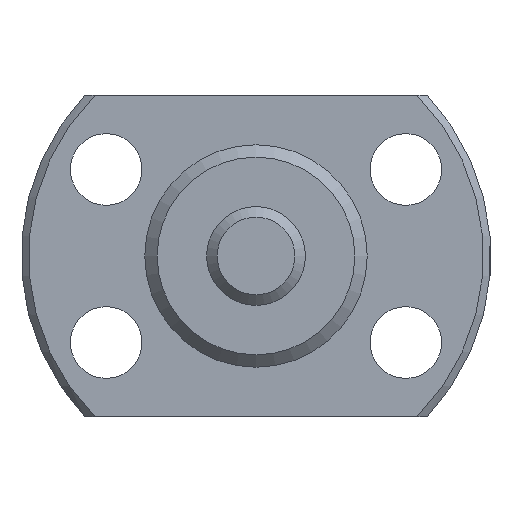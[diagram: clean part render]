
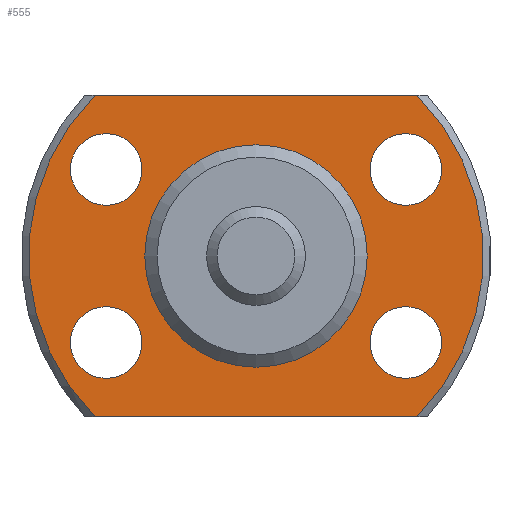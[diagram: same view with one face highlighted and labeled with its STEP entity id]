
A CAD part, left-side view. The second image highlights one B-rep face of the part: STEP entity #555.
In plain terms, the highlighted planar face has unit normal (-1, 0, 0) as drawn and (1, 0, 0) by its records, which use the part's own axes.
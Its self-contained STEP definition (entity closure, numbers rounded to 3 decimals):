
#51=LINE('',#981,#67);
#52=LINE('',#983,#68);
#67=VECTOR('',#810,1000.);
#68=VECTOR('',#811,1000.);
#174=ORIENTED_EDGE('',*,*,#268,.T.);
#175=ORIENTED_EDGE('',*,*,#246,.T.);
#176=ORIENTED_EDGE('',*,*,#269,.T.);
#177=ORIENTED_EDGE('',*,*,#270,.T.);
#178=ORIENTED_EDGE('',*,*,#271,.F.);
#179=ORIENTED_EDGE('',*,*,#272,.F.);
#180=ORIENTED_EDGE('',*,*,#273,.F.);
#181=ORIENTED_EDGE('',*,*,#274,.F.);
#182=ORIENTED_EDGE('',*,*,#267,.F.);
#246=EDGE_CURVE('',#303,#305,#350,.T.);
#267=EDGE_CURVE('',#324,#324,#365,.T.);
#268=EDGE_CURVE('',#325,#303,#51,.T.);
#269=EDGE_CURVE('',#305,#326,#52,.T.);
#270=EDGE_CURVE('',#326,#325,#366,.T.);
#271=EDGE_CURVE('',#327,#327,#367,.T.);
#272=EDGE_CURVE('',#328,#328,#368,.T.);
#273=EDGE_CURVE('',#329,#329,#369,.T.);
#274=EDGE_CURVE('',#330,#330,#370,.T.);
#303=VERTEX_POINT('',#916);
#305=VERTEX_POINT('',#923);
#324=VERTEX_POINT('',#979);
#325=VERTEX_POINT('',#982);
#326=VERTEX_POINT('',#984);
#327=VERTEX_POINT('',#987);
#328=VERTEX_POINT('',#989);
#329=VERTEX_POINT('',#991);
#330=VERTEX_POINT('',#993);
#350=CIRCLE('',#628,9.2);
#365=CIRCLE('',#652,4.3);
#366=CIRCLE('',#654,9.2);
#367=CIRCLE('',#655,1.45);
#368=CIRCLE('',#656,1.45);
#369=CIRCLE('',#657,1.45);
#370=CIRCLE('',#658,1.45);
#423=EDGE_LOOP('',(#174,#175,#176,#177));
#424=EDGE_LOOP('',(#178));
#425=EDGE_LOOP('',(#179));
#426=EDGE_LOOP('',(#180));
#427=EDGE_LOOP('',(#181));
#428=EDGE_LOOP('',(#182));
#493=FACE_BOUND('',#423,.T.);
#494=FACE_BOUND('',#424,.T.);
#495=FACE_BOUND('',#425,.T.);
#496=FACE_BOUND('',#426,.T.);
#497=FACE_BOUND('',#427,.T.);
#498=FACE_BOUND('',#428,.T.);
#524=PLANE('',#653);
#555=ADVANCED_FACE('',(#493,#494,#495,#496,#497,#498),#524,.T.);
#628=AXIS2_PLACEMENT_3D('',#924,#754,#755);
#652=AXIS2_PLACEMENT_3D('',#978,#806,#807);
#653=AXIS2_PLACEMENT_3D('',#980,#808,#809);
#654=AXIS2_PLACEMENT_3D('',#985,#812,#813);
#655=AXIS2_PLACEMENT_3D('',#986,#814,#815);
#656=AXIS2_PLACEMENT_3D('',#988,#816,#817);
#657=AXIS2_PLACEMENT_3D('',#990,#818,#819);
#658=AXIS2_PLACEMENT_3D('',#992,#820,#821);
#754=DIRECTION('',(1.,0.,0.));
#755=DIRECTION('',(0.,0.,-1.));
#806=DIRECTION('',(1.,0.,0.));
#807=DIRECTION('',(0.,0.,-1.));
#808=DIRECTION('',(1.,0.,0.));
#809=DIRECTION('',(0.,0.,-1.));
#810=DIRECTION('',(0.,-1.,0.));
#811=DIRECTION('',(0.,1.,0.));
#812=DIRECTION('',(1.,0.,0.));
#813=DIRECTION('',(0.,0.,-1.));
#814=DIRECTION('',(1.,0.,0.));
#815=DIRECTION('',(0.,0.,-1.));
#816=DIRECTION('',(1.,0.,0.));
#817=DIRECTION('',(0.,0.,-1.));
#818=DIRECTION('',(1.,0.,0.));
#819=DIRECTION('',(0.,0.,-1.));
#820=DIRECTION('',(1.,0.,0.));
#821=DIRECTION('',(0.,0.,-1.));
#916=CARTESIAN_POINT('',(3.,-6.511,6.5));
#923=CARTESIAN_POINT('',(3.,-6.511,-6.5));
#924=CARTESIAN_POINT('',(3.,0.,0.));
#978=CARTESIAN_POINT('',(3.,0.,0.));
#979=CARTESIAN_POINT('',(3.,0.,-4.3));
#980=CARTESIAN_POINT('',(3.,4.3,0.));
#981=CARTESIAN_POINT('',(3.,9.5,6.5));
#982=CARTESIAN_POINT('',(3.,6.511,6.5));
#983=CARTESIAN_POINT('',(3.,-9.5,-6.5));
#984=CARTESIAN_POINT('',(3.,6.511,-6.5));
#985=CARTESIAN_POINT('',(3.,0.,0.));
#986=CARTESIAN_POINT('',(3.,6.062,3.5));
#987=CARTESIAN_POINT('',(3.,6.062,2.05));
#988=CARTESIAN_POINT('',(3.,-6.062,3.5));
#989=CARTESIAN_POINT('',(3.,-6.062,2.05));
#990=CARTESIAN_POINT('',(3.,-6.062,-3.5));
#991=CARTESIAN_POINT('',(3.,-6.062,-4.95));
#992=CARTESIAN_POINT('',(3.,6.062,-3.5));
#993=CARTESIAN_POINT('',(3.,6.062,-4.95));
